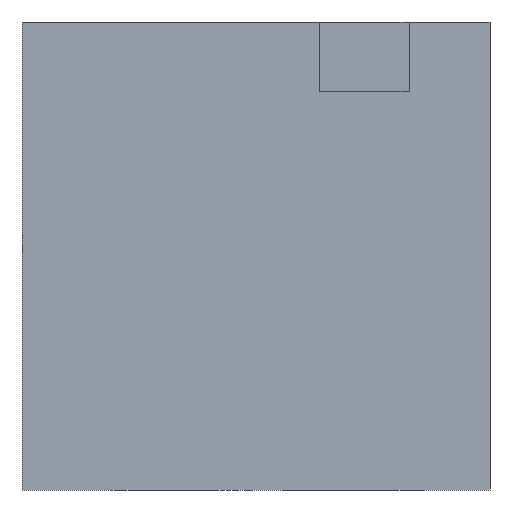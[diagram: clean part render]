
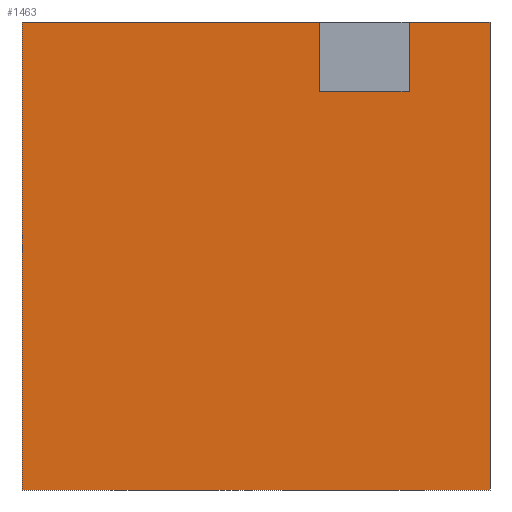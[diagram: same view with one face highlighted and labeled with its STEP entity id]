
A CAD part, left-side view. The second image highlights one B-rep face of the part: STEP entity #1463.
In plain terms, the highlighted planar face has unit normal (-1, 0, 0).
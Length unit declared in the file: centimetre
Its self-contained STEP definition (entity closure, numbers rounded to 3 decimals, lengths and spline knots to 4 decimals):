
#6 = VECTOR ( 'NONE', #19, 100. ) ;
#19 = DIRECTION ( 'NONE',  ( 0., -1., 0. ) ) ;
#33 = CARTESIAN_POINT ( 'NONE',  ( 0., 0., 1000. ) ) ;
#67 = VERTEX_POINT ( 'NONE', #1261 ) ;
#80 = CARTESIAN_POINT ( 'NONE',  ( 0., 172.9407, 1000. ) ) ;
#104 = DIRECTION ( 'NONE',  ( 0., 0., -1. ) ) ;
#194 = EDGE_CURVE ( 'NONE', #1672, #67, #1057, .T. ) ;
#214 = ORIENTED_EDGE ( 'NONE', *, *, #282, .F. ) ;
#233 = VECTOR ( 'NONE', #749, 100. ) ;
#246 = DIRECTION ( 'NONE',  ( 0., 0., -1. ) ) ;
#255 = VECTOR ( 'NONE', #1185, 100. ) ;
#259 = LINE ( 'NONE', #376, #255 ) ;
#282 = EDGE_CURVE ( 'NONE', #314, #1482, #974, .T. ) ;
#299 = CARTESIAN_POINT ( 'NONE',  ( 0., 364.7413, 851.8682 ) ) ;
#314 = VERTEX_POINT ( 'NONE', #299 ) ;
#319 = CARTESIAN_POINT ( 'NONE',  ( 0., 0., 1000. ) ) ;
#326 = ORIENTED_EDGE ( 'NONE', *, *, #194, .T. ) ;
#360 = CARTESIAN_POINT ( 'NONE',  ( 0., 364.7413, 851.8682 ) ) ;
#368 = VECTOR ( 'NONE', #830, 100. ) ;
#376 = CARTESIAN_POINT ( 'NONE',  ( 0., 1000., 1000. ) ) ;
#406 = EDGE_CURVE ( 'NONE', #819, #612, #959, .T. ) ;
#411 = CARTESIAN_POINT ( 'NONE',  ( 0., 172.9407, 851.8682 ) ) ;
#430 = CARTESIAN_POINT ( 'NONE',  ( 0., 0., 0. ) ) ;
#434 = DIRECTION ( 'NONE',  ( 0., 0., 1. ) ) ;
#471 = EDGE_CURVE ( 'NONE', #1482, #819, #543, .T. ) ;
#473 = LINE ( 'NONE', #360, #233 ) ;
#481 = AXIS2_PLACEMENT_3D ( 'NONE', #1453, #1434, #104 ) ;
#543 = LINE ( 'NONE', #411, #695 ) ;
#553 = VERTEX_POINT ( 'NONE', #430 ) ;
#557 = EDGE_LOOP ( 'NONE', ( #214, #1401, #1254, #326, #840, #687, #880, #1242 ) ) ;
#612 = VERTEX_POINT ( 'NONE', #33 ) ;
#617 = VECTOR ( 'NONE', #246, 100. ) ;
#687 = ORIENTED_EDGE ( 'NONE', *, *, #1687, .F. ) ;
#695 = VECTOR ( 'NONE', #434, 100. ) ;
#749 = DIRECTION ( 'NONE',  ( 0., 0., -1. ) ) ;
#769 = VERTEX_POINT ( 'NONE', #1027 ) ;
#810 = CARTESIAN_POINT ( 'NONE',  ( 0., 172.9407, 851.8682 ) ) ;
#819 = VERTEX_POINT ( 'NONE', #80 ) ;
#830 = DIRECTION ( 'NONE',  ( 0., -1., 0. ) ) ;
#840 = ORIENTED_EDGE ( 'NONE', *, *, #1049, .T. ) ;
#851 = DIRECTION ( 'NONE',  ( 0., 0., -1. ) ) ;
#880 = ORIENTED_EDGE ( 'NONE', *, *, #406, .F. ) ;
#900 = PLANE ( 'NONE',  #481 ) ;
#921 = FACE_OUTER_BOUND ( 'NONE', #557, .T. ) ;
#959 = LINE ( 'NONE', #1617, #1219 ) ;
#974 = LINE ( 'NONE', #1359, #368 ) ;
#1027 = CARTESIAN_POINT ( 'NONE',  ( 0., 364.7413, 1000. ) ) ;
#1049 = EDGE_CURVE ( 'NONE', #67, #553, #1206, .T. ) ;
#1057 = LINE ( 'NONE', #1299, #617 ) ;
#1185 = DIRECTION ( 'NONE',  ( 0., -1., 0. ) ) ;
#1206 = LINE ( 'NONE', #1608, #6 ) ;
#1219 = VECTOR ( 'NONE', #1509, 100. ) ;
#1242 = ORIENTED_EDGE ( 'NONE', *, *, #471, .F. ) ;
#1254 = ORIENTED_EDGE ( 'NONE', *, *, #1343, .F. ) ;
#1261 = CARTESIAN_POINT ( 'NONE',  ( 0., 1000., 0. ) ) ;
#1294 = EDGE_CURVE ( 'NONE', #769, #314, #473, .T. ) ;
#1299 = CARTESIAN_POINT ( 'NONE',  ( 0., 1000., 1000. ) ) ;
#1343 = EDGE_CURVE ( 'NONE', #1672, #769, #259, .T. ) ;
#1356 = CARTESIAN_POINT ( 'NONE',  ( 0., 1000., 1000. ) ) ;
#1359 = CARTESIAN_POINT ( 'NONE',  ( 0., 172.9407, 851.8682 ) ) ;
#1399 = VECTOR ( 'NONE', #851, 100. ) ;
#1401 = ORIENTED_EDGE ( 'NONE', *, *, #1294, .F. ) ;
#1434 = DIRECTION ( 'NONE',  ( 1., 0., 0. ) ) ;
#1453 = CARTESIAN_POINT ( 'NONE',  ( 0., 1000., 1000. ) ) ;
#1463 = ADVANCED_FACE ( 'NONE', ( #921 ), #900, .F. ) ;
#1482 = VERTEX_POINT ( 'NONE', #810 ) ;
#1509 = DIRECTION ( 'NONE',  ( 0., -1., 0. ) ) ;
#1608 = CARTESIAN_POINT ( 'NONE',  ( 0., 1000., 0. ) ) ;
#1617 = CARTESIAN_POINT ( 'NONE',  ( 0., 1000., 1000. ) ) ;
#1672 = VERTEX_POINT ( 'NONE', #1356 ) ;
#1687 = EDGE_CURVE ( 'NONE', #612, #553, #1688, .T. ) ;
#1688 = LINE ( 'NONE', #319, #1399 ) ;
